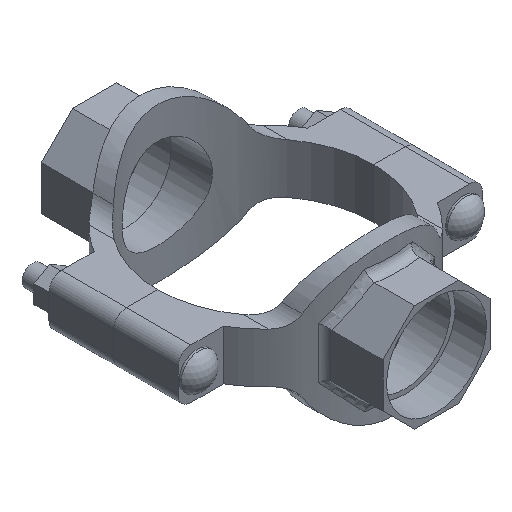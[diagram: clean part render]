
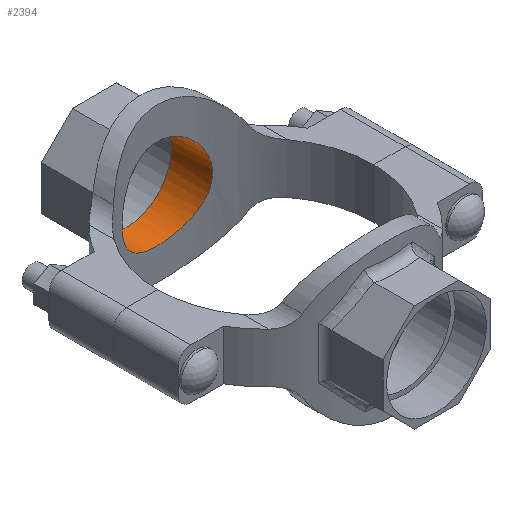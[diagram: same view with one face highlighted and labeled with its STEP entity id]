
A CAD part, isometric view. The second image highlights one B-rep face of the part: STEP entity #2394.
In plain terms, the highlighted cylindrical face has radius 34.493 mm (diameter 68.986 mm), a full revolution.
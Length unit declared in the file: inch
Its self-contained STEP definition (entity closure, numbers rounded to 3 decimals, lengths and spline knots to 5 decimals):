
#71=B_SPLINE_CURVE_WITH_KNOTS('',3,(#3969,#3970,#3971,#3972,#3973,#3974,
#3975,#3976,#3977,#3978,#3979,#3980,#3981,#3982,#3983,#3984,#3985,#3986,
#3987,#3988,#3989,#3990,#3991,#3992,#3993,#3994,#3995,#3996,#3997,#3998,
#3999,#4000,#4001,#4002,#4003,#4004,#4005,#4006,#4007,#4008,#4009,#4010,
#4011,#4012,#4013,#4014,#4015,#4016,#4017,#4018,#4019,#4020,#4021,#4022,
#4023,#4024,#4025,#4026,#4027,#4028,#4029,#4030,#4031,#4032,#4033,#4034),
 .UNSPECIFIED.,.T.,.F.,(4,2,2,2,2,2,2,2,2,2,2,2,2,2,2,2,2,2,2,2,2,2,2,2,
2,2,2,2,2,2,2,2,4),(0.,0.65894,1.31787,1.97681,
2.63574,3.29387,3.952,4.61013,5.26826,
5.92639,6.58452,7.24265,7.90078,8.55972,
9.21865,9.87759,10.53652,11.19546,11.8544,
12.51333,13.17227,13.8304,14.48853,15.14666,
15.80479,16.46292,17.12105,17.77918,18.4373,
19.09624,19.75518,20.41411,21.07305),
 .UNSPECIFIED.);
#126=CYLINDRICAL_SURFACE('',#2625,1.358);
#230=FACE_OUTER_BOUND('',#365,.T.);
#365=EDGE_LOOP('',(#1703,#1704,#1705,#1706));
#532=LINE('',#3968,#714);
#714=VECTOR('',#3016,1.358);
#859=CIRCLE('',#2626,1.358);
#1006=VERTEX_POINT('',#3965);
#1007=VERTEX_POINT('',#3967);
#1272=EDGE_CURVE('',#1006,#1006,#859,.T.);
#1273=EDGE_CURVE('',#1006,#1007,#532,.T.);
#1274=EDGE_CURVE('',#1007,#1007,#71,.T.);
#1703=ORIENTED_EDGE('',*,*,#1272,.F.);
#1704=ORIENTED_EDGE('',*,*,#1273,.T.);
#1705=ORIENTED_EDGE('',*,*,#1274,.F.);
#1706=ORIENTED_EDGE('',*,*,#1273,.F.);
#2394=ADVANCED_FACE('',(#230),#126,.F.);
#2625=AXIS2_PLACEMENT_3D('',#3964,#3012,#3013);
#2626=AXIS2_PLACEMENT_3D('',#3966,#3014,#3015);
#3012=DIRECTION('center_axis',(0.,-1.,0.));
#3013=DIRECTION('ref_axis',(-1.,0.,0.));
#3014=DIRECTION('center_axis',(0.,-1.,0.));
#3015=DIRECTION('ref_axis',(-1.,0.,0.));
#3016=DIRECTION('',(0.,-1.,0.));
#3964=CARTESIAN_POINT('Origin',(0.,4.19,0.));
#3965=CARTESIAN_POINT('',(1.358,4.19,0.));
#3966=CARTESIAN_POINT('Origin',(0.,4.19,0.));
#3967=CARTESIAN_POINT('',(1.358,2.95268,0.));
#3968=CARTESIAN_POINT('',(1.358,4.19,0.));
#3969=CARTESIAN_POINT('Ctrl Pts',(1.358,2.95268,0.));
#3970=CARTESIAN_POINT('Ctrl Pts',(1.358,2.95268,-0.08647));
#3971=CARTESIAN_POINT('Ctrl Pts',(1.34961,2.95659,-0.1755));
#3972=CARTESIAN_POINT('Ctrl Pts',(1.3147,2.97227,-0.35185));
#3973=CARTESIAN_POINT('Ctrl Pts',(1.2882,2.98403,-0.43917));
#3974=CARTESIAN_POINT('Ctrl Pts',(1.21861,3.01312,-0.60607));
#3975=CARTESIAN_POINT('Ctrl Pts',(1.17547,3.03044,-0.6858));
#3976=CARTESIAN_POINT('Ctrl Pts',(1.07616,3.06711,-0.83302));
#3977=CARTESIAN_POINT('Ctrl Pts',(1.01999,3.08643,-0.90052));
#3978=CARTESIAN_POINT('Ctrl Pts',(0.90059,3.12335,-1.01991));
#3979=CARTESIAN_POINT('Ctrl Pts',(0.83313,3.14231,-1.07608));
#3980=CARTESIAN_POINT('Ctrl Pts',(0.68589,3.1777,-1.17542));
#3981=CARTESIAN_POINT('Ctrl Pts',(0.60611,3.1941,-1.2186));
#3982=CARTESIAN_POINT('Ctrl Pts',(0.4391,3.22131,-1.28823));
#3983=CARTESIAN_POINT('Ctrl Pts',(0.35172,3.23212,-1.31474));
#3984=CARTESIAN_POINT('Ctrl Pts',(0.17536,3.24647,-1.34963));
#3985=CARTESIAN_POINT('Ctrl Pts',(0.08637,3.25,-1.358));
#3986=CARTESIAN_POINT('Ctrl Pts',(-0.08637,3.25,-1.358));
#3987=CARTESIAN_POINT('Ctrl Pts',(-0.17536,3.24647,-1.34963));
#3988=CARTESIAN_POINT('Ctrl Pts',(-0.35172,3.23212,-1.31474));
#3989=CARTESIAN_POINT('Ctrl Pts',(-0.4391,3.22131,-1.28823));
#3990=CARTESIAN_POINT('Ctrl Pts',(-0.60611,3.1941,-1.2186));
#3991=CARTESIAN_POINT('Ctrl Pts',(-0.68589,3.1777,-1.17542));
#3992=CARTESIAN_POINT('Ctrl Pts',(-0.83313,3.14231,-1.07608));
#3993=CARTESIAN_POINT('Ctrl Pts',(-0.90059,3.12335,-1.01991));
#3994=CARTESIAN_POINT('Ctrl Pts',(-1.01999,3.08643,-0.90052));
#3995=CARTESIAN_POINT('Ctrl Pts',(-1.07616,3.06711,-0.83302));
#3996=CARTESIAN_POINT('Ctrl Pts',(-1.17547,3.03044,-0.6858));
#3997=CARTESIAN_POINT('Ctrl Pts',(-1.21861,3.01312,-0.60607));
#3998=CARTESIAN_POINT('Ctrl Pts',(-1.2882,2.98403,-0.43917));
#3999=CARTESIAN_POINT('Ctrl Pts',(-1.3147,2.97227,-0.35185));
#4000=CARTESIAN_POINT('Ctrl Pts',(-1.34961,2.95659,-0.1755));
#4001=CARTESIAN_POINT('Ctrl Pts',(-1.358,2.95268,-0.08647));
#4002=CARTESIAN_POINT('Ctrl Pts',(-1.358,2.95268,0.08647));
#4003=CARTESIAN_POINT('Ctrl Pts',(-1.34961,2.95659,0.1755));
#4004=CARTESIAN_POINT('Ctrl Pts',(-1.3147,2.97227,0.35185));
#4005=CARTESIAN_POINT('Ctrl Pts',(-1.2882,2.98403,0.43917));
#4006=CARTESIAN_POINT('Ctrl Pts',(-1.21861,3.01312,0.60607));
#4007=CARTESIAN_POINT('Ctrl Pts',(-1.17547,3.03044,0.6858));
#4008=CARTESIAN_POINT('Ctrl Pts',(-1.07616,3.06711,0.83302));
#4009=CARTESIAN_POINT('Ctrl Pts',(-1.01999,3.08643,0.90052));
#4010=CARTESIAN_POINT('Ctrl Pts',(-0.90059,3.12335,1.01991));
#4011=CARTESIAN_POINT('Ctrl Pts',(-0.83313,3.14231,1.07608));
#4012=CARTESIAN_POINT('Ctrl Pts',(-0.68589,3.1777,1.17542));
#4013=CARTESIAN_POINT('Ctrl Pts',(-0.60611,3.1941,1.2186));
#4014=CARTESIAN_POINT('Ctrl Pts',(-0.4391,3.22131,1.28823));
#4015=CARTESIAN_POINT('Ctrl Pts',(-0.35172,3.23212,1.31474));
#4016=CARTESIAN_POINT('Ctrl Pts',(-0.17536,3.24647,1.34963));
#4017=CARTESIAN_POINT('Ctrl Pts',(-0.08637,3.25,1.358));
#4018=CARTESIAN_POINT('Ctrl Pts',(0.08637,3.25,1.358));
#4019=CARTESIAN_POINT('Ctrl Pts',(0.17536,3.24647,1.34963));
#4020=CARTESIAN_POINT('Ctrl Pts',(0.35172,3.23212,1.31474));
#4021=CARTESIAN_POINT('Ctrl Pts',(0.4391,3.22131,1.28823));
#4022=CARTESIAN_POINT('Ctrl Pts',(0.60611,3.1941,1.2186));
#4023=CARTESIAN_POINT('Ctrl Pts',(0.68589,3.1777,1.17542));
#4024=CARTESIAN_POINT('Ctrl Pts',(0.83313,3.14231,1.07608));
#4025=CARTESIAN_POINT('Ctrl Pts',(0.90059,3.12335,1.01991));
#4026=CARTESIAN_POINT('Ctrl Pts',(1.01999,3.08643,0.90052));
#4027=CARTESIAN_POINT('Ctrl Pts',(1.07616,3.06711,0.83302));
#4028=CARTESIAN_POINT('Ctrl Pts',(1.17547,3.03044,0.6858));
#4029=CARTESIAN_POINT('Ctrl Pts',(1.21861,3.01312,0.60607));
#4030=CARTESIAN_POINT('Ctrl Pts',(1.2882,2.98403,0.43917));
#4031=CARTESIAN_POINT('Ctrl Pts',(1.3147,2.97227,0.35185));
#4032=CARTESIAN_POINT('Ctrl Pts',(1.34961,2.95659,0.1755));
#4033=CARTESIAN_POINT('Ctrl Pts',(1.358,2.95268,0.08647));
#4034=CARTESIAN_POINT('Ctrl Pts',(1.358,2.95268,0.));
